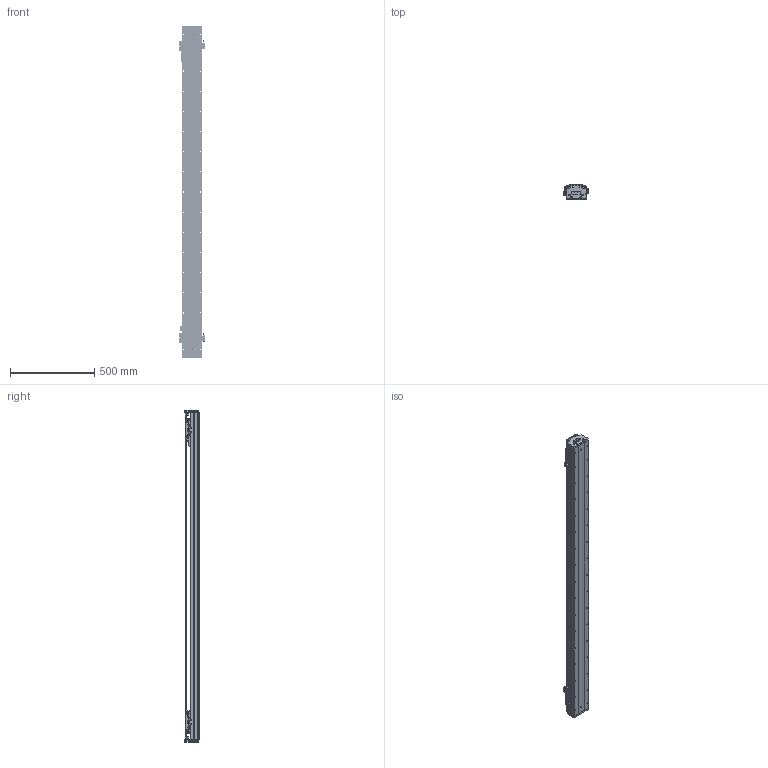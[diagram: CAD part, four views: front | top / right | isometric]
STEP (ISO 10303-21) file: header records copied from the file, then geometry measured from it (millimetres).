
FILE_DESCRIPTION (( 'STEP AP203' ), '1' );
FILE_NAME ('DKW120-2×B15-W060（T1580-L005-0.2）.STEP', '2021-09-29T03:24:40', ( '微软用户' ), ( '微软中国' ), 'SwSTEP 2.0', 'SolidWorks 2018', '' );
FILE_SCHEMA (( 'CONFIG_CONTROL_DESIGN' ));
Length unit declared in the file: millimetre
Products named in the file (27): 06652-0001-004-00 DKW120嶺輸菜輸; DKW-SG-GYP-H-00 嫖萇覜茼え; DKW120-2×B15-W060（T1580-L005-0.2）; Ru2; DKW-HXJ-JY-00 遣喳砎蝶; DKW-HYB-JY-A-00 賑輸揤啣A; RUS嫖掑郪璃; 10940-0001-004-00 120詩湍裔啣; DKW119-HT-C15-00 賑怢啣; DKW119-RU-DTJ-00 RU2黍杅芛盓殤; 砎蝶猾沭; MSB15TS2FC+U92.7-16.35_16.35N_(0_45.85_0_01G-M4); 10980-0001-003-00 嫖萇羲壽嘐隅釱; 12160-0000-003-00 DKW120詩湍嶺輸; BKM015-W060-C1-TP-3; EE_SX674A; 12160-0000-004-00  DKW120詩湍揤輸; B15-W060; DKW-DG-XJ-Z-00 笢潔滅袉砎蝶; DKW120 单轴模组-拉钢带组件; MSB15-DG-U; DKW-GYP-ZJ-00 笢潔嫖萇覜茼え; BKMA01-W060-TRL280; 06652-0001-001-00 DKW120傷啣; DKW120-B15-T300-DZ-00 菁釱; DKW-KGZ-ZJ-00 中间光电开关支架; RUS嫖掑喜
Assembly tree (49 placements, depth 3):
  DKW120-2×B15-W060（T1580-L005-0.2）
    DKW120-B15-T300-DZ-00 菁釱
    B15-W060  x2
      DKW-SG-GYP-H-00 嫖萇覜茼え
      DKW-HYB-JY-A-00 賑輸揤啣A
      DKW119-HT-C15-00 賑怢啣
      MSB15TS2FC+U92.7-16.35_16.35N_(0_45.85_0_01G-M4)
      BKM015-W060-C1-TP-3
    MSB15-DG-U  x2
    DKW120 单轴模组-拉钢带组件
      06652-0001-001-00 DKW120傷啣  x2
      06652-0001-004-00 DKW120嶺輸菜輸  x4
      DKW-HXJ-JY-00 遣喳砎蝶  x4
      10940-0001-004-00 120詩湍裔啣
      砎蝶猾沭  x2
      12160-0000-003-00 DKW120詩湍嶺輸  x2
      12160-0000-004-00  DKW120詩湍揤輸  x2
    BKMA01-W060-TRL280
    RUS嫖掑郪璃
      RUS嫖掑喜
      Ru2
    DKW119-RU-DTJ-00 RU2黍杅芛盓殤  x2
    10980-0001-003-00 嫖萇羲壽嘐隅釱  x2
    EE_SX674A  x5
    DKW-DG-XJ-Z-00 笢潔滅袉砎蝶
    DKW-GYP-ZJ-00 笢潔嫖萇覜茼え
    DKW-KGZ-ZJ-00 中间光电开关支架
    Ru2
Bounding box: 154.09 x 84 x 1976 mm (x, y, z)
Volume: 7130358.3 mm3; surface area: 2821365.3 mm2
Topology: 76 solids, 174 shells, 6948 faces, 18784 edges, 12107 vertices
Faces by surface type: plane 3954, cylinder 1904, cone 556, bspline 534
Entity records: 130451 total; most frequent: CARTESIAN_POINT 46269, ORIENTED_EDGE 17303, DIRECTION 15947, EDGE_CURVE 8692, VERTEX_POINT 5697, AXIS2_PLACEMENT_3D 5328, VECTOR 5291, LINE 5291
